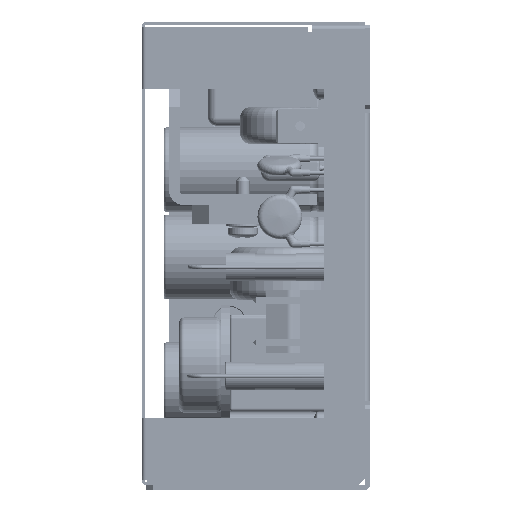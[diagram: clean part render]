
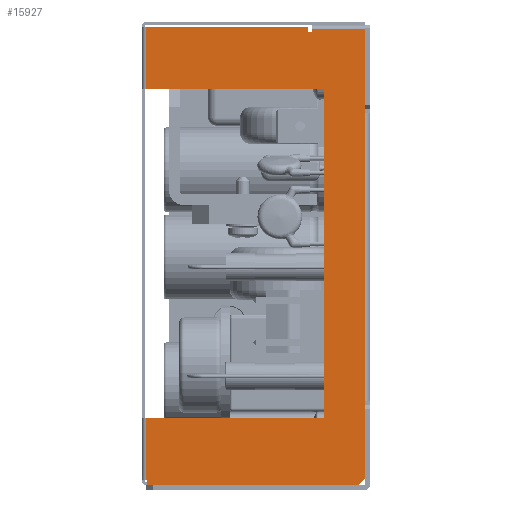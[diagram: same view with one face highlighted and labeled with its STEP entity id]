
A CAD part, left-side view. The second image highlights one B-rep face of the part: STEP entity #15927.
In plain terms, the highlighted planar face has unit normal (-1, 0, 0).
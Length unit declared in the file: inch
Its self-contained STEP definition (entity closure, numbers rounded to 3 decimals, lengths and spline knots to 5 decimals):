
#2909 = ORIENTED_EDGE ( 'NONE', *, *, #4669, .F. ) ;
#3052 = VECTOR ( 'NONE', #204284, 39.37008 ) ;
#3619 = LINE ( 'NONE', #195613, #93555 ) ;
#4669 = EDGE_CURVE ( 'NONE', #81488, #15446, #155035, .T. ) ;
#8972 = DIRECTION ( 'NONE',  ( 0., 0., 1. ) ) ;
#13727 = CARTESIAN_POINT ( 'NONE',  ( -2.75, 1.264, -1.658 ) ) ;
#15446 = VERTEX_POINT ( 'NONE', #191349 ) ;
#15890 = DIRECTION ( 'NONE',  ( 0., -0.707, 0.707 ) ) ;
#15927 = ADVANCED_FACE ( 'NONE', ( #211144 ), #17992, .T. ) ;
#17992 = PLANE ( 'NONE',  #66203 ) ;
#18033 = LINE ( 'NONE', #146207, #192764 ) ;
#19205 = CARTESIAN_POINT ( 'NONE',  ( -2.75, 1.354, -1.232 ) ) ;
#23055 = DIRECTION ( 'NONE',  ( 0., -1., 0. ) ) ;
#28141 = EDGE_CURVE ( 'NONE', #46094, #179667, #113719, .T. ) ;
#29319 = VERTEX_POINT ( 'NONE', #147679 ) ;
#29731 = ORIENTED_EDGE ( 'NONE', *, *, #183573, .T. ) ;
#32682 = EDGE_CURVE ( 'NONE', #128424, #15446, #139855, .T. ) ;
#35075 = DIRECTION ( 'NONE',  ( 0., 0., -1. ) ) ;
#37896 = LINE ( 'NONE', #13727, #122466 ) ;
#38536 = VECTOR ( 'NONE', #206653, 39.37008 ) ;
#40079 = CARTESIAN_POINT ( 'NONE',  ( -2.75, -2.65049, -1.678 ) ) ;
#42469 = LINE ( 'NONE', #57145, #82098 ) ;
#42502 = EDGE_CURVE ( 'NONE', #163483, #217439, #3619, .T. ) ;
#45467 = VECTOR ( 'NONE', #63110, 39.37008 ) ;
#45764 = VERTEX_POINT ( 'NONE', #205396 ) ;
#46094 = VERTEX_POINT ( 'NONE', #180903 ) ;
#48010 = LINE ( 'NONE', #68891, #3052 ) ;
#50980 = EDGE_LOOP ( 'NONE', ( #77488, #29731, #143570, #91248, #123763, #61922, #114696, #87383, #57066, #119933, #78362, #163026, #2909, #211637, #118994 ) ) ;
#56455 = VERTEX_POINT ( 'NONE', #162747 ) ;
#57066 = ORIENTED_EDGE ( 'NONE', *, *, #117807, .F. ) ;
#57145 = CARTESIAN_POINT ( 'NONE',  ( -2.75, 1.614, 1.715 ) ) ;
#57462 = VECTOR ( 'NONE', #15890, 39.37008 ) ;
#61922 = ORIENTED_EDGE ( 'NONE', *, *, #89407, .T. ) ;
#63110 = DIRECTION ( 'NONE',  ( 0., 0., 1. ) ) ;
#63565 = CARTESIAN_POINT ( 'NONE',  ( -2.75, 1.354, -1.232 ) ) ;
#65637 = VERTEX_POINT ( 'NONE', #189023 ) ;
#66203 = AXIS2_PLACEMENT_3D ( 'NONE', #102317, #136273, #35075 ) ;
#67504 = LINE ( 'NONE', #195121, #197200 ) ;
#68689 = CARTESIAN_POINT ( 'NONE',  ( -2.75, 1.614, 1.715 ) ) ;
#68891 = CARTESIAN_POINT ( 'NONE',  ( -2.75, 0.03, -5.99648 ) ) ;
#71995 = CARTESIAN_POINT ( 'NONE',  ( -2.75, 1.239, -1.698 ) ) ;
#74099 = DIRECTION ( 'NONE',  ( 0., -1., 0. ) ) ;
#74620 = EDGE_CURVE ( 'NONE', #45764, #145309, #88769, .T. ) ;
#77488 = ORIENTED_EDGE ( 'NONE', *, *, #149110, .F. ) ;
#78362 = ORIENTED_EDGE ( 'NONE', *, *, #153395, .F. ) ;
#78650 = VECTOR ( 'NONE', #201728, 39.37008 ) ;
#79978 = CARTESIAN_POINT ( 'NONE',  ( -2.75, 0.03, 1.215 ) ) ;
#81488 = VERTEX_POINT ( 'NONE', #192954 ) ;
#82098 = VECTOR ( 'NONE', #74099, 39.37008 ) ;
#87383 = ORIENTED_EDGE ( 'NONE', *, *, #142981, .F. ) ;
#88769 = LINE ( 'NONE', #71995, #38536 ) ;
#89407 = EDGE_CURVE ( 'NONE', #217439, #179667, #48010, .T. ) ;
#89556 = VECTOR ( 'NONE', #23055, 39.37008 ) ;
#91248 = ORIENTED_EDGE ( 'NONE', *, *, #118536, .T. ) ;
#93496 = VECTOR ( 'NONE', #214487, 39.37008 ) ;
#93555 = VECTOR ( 'NONE', #212597, 39.37008 ) ;
#93765 = DIRECTION ( 'NONE',  ( 0., 0., -1. ) ) ;
#94111 = EDGE_CURVE ( 'NONE', #65637, #144570, #192475, .T. ) ;
#95759 = LINE ( 'NONE', #130389, #45467 ) ;
#95994 = DIRECTION ( 'NONE',  ( 0., 0., 1. ) ) ;
#97476 = LINE ( 'NONE', #127207, #142396 ) ;
#99571 = CARTESIAN_POINT ( 'NONE',  ( -2.75, 0.04164, 1.715 ) ) ;
#100239 = CARTESIAN_POINT ( 'NONE',  ( -2.75, 1.614, 1.715 ) ) ;
#102317 = CARTESIAN_POINT ( 'NONE',  ( -2.75, -2.65049, -5.99648 ) ) ;
#102708 = EDGE_CURVE ( 'NONE', #145309, #81488, #37896, .T. ) ;
#109594 = VERTEX_POINT ( 'NONE', #19205 ) ;
#112354 = DIRECTION ( 'NONE',  ( 0., -1., 0. ) ) ;
#113719 = LINE ( 'NONE', #196691, #193160 ) ;
#114696 = ORIENTED_EDGE ( 'NONE', *, *, #28141, .F. ) ;
#115018 = DIRECTION ( 'NONE',  ( 0., 1., 0. ) ) ;
#117807 = EDGE_CURVE ( 'NONE', #144570, #207285, #42469, .T. ) ;
#118536 = EDGE_CURVE ( 'NONE', #109594, #163483, #18033, .T. ) ;
#118994 = ORIENTED_EDGE ( 'NONE', *, *, #74620, .F. ) ;
#119933 = ORIENTED_EDGE ( 'NONE', *, *, #94111, .F. ) ;
#122466 = VECTOR ( 'NONE', #115018, 39.37008 ) ;
#123763 = ORIENTED_EDGE ( 'NONE', *, *, #42502, .T. ) ;
#127207 = CARTESIAN_POINT ( 'NONE',  ( -2.75, 0.03, -5.99648 ) ) ;
#128424 = VERTEX_POINT ( 'NONE', #169245 ) ;
#129646 = EDGE_CURVE ( 'NONE', #29319, #109594, #138415, .T. ) ;
#130389 = CARTESIAN_POINT ( 'NONE',  ( -2.75, 1.664, -2.01178 ) ) ;
#136273 = DIRECTION ( 'NONE',  ( -1., 0., 0. ) ) ;
#138415 = LINE ( 'NONE', #63565, #93496 ) ;
#139855 = LINE ( 'NONE', #40079, #89556 ) ;
#141661 = DIRECTION ( 'NONE',  ( 0., 0., -1. ) ) ;
#142396 = VECTOR ( 'NONE', #8972, 39.37008 ) ;
#142981 = EDGE_CURVE ( 'NONE', #207285, #46094, #67504, .T. ) ;
#143570 = ORIENTED_EDGE ( 'NONE', *, *, #129646, .T. ) ;
#144570 = VERTEX_POINT ( 'NONE', #68689 ) ;
#145309 = VERTEX_POINT ( 'NONE', #211885 ) ;
#146207 = CARTESIAN_POINT ( 'NONE',  ( -2.75, 1.354, -1.232 ) ) ;
#147679 = CARTESIAN_POINT ( 'NONE',  ( -2.75, 0.03, -1.232 ) ) ;
#149110 = EDGE_CURVE ( 'NONE', #56455, #45764, #213678, .T. ) ;
#153395 = EDGE_CURVE ( 'NONE', #128424, #65637, #95759, .T. ) ;
#155035 = LINE ( 'NONE', #158745, #184286 ) ;
#157676 = CARTESIAN_POINT ( 'NONE',  ( -2.75, 0.03, 1.678 ) ) ;
#158745 = CARTESIAN_POINT ( 'NONE',  ( -2.75, 1.264, -2.01178 ) ) ;
#162747 = CARTESIAN_POINT ( 'NONE',  ( -2.75, 0.03, -1.698 ) ) ;
#163026 = ORIENTED_EDGE ( 'NONE', *, *, #32682, .T. ) ;
#163483 = VERTEX_POINT ( 'NONE', #209577 ) ;
#169245 = CARTESIAN_POINT ( 'NONE',  ( -2.75, 1.664, -1.678 ) ) ;
#179667 = VERTEX_POINT ( 'NONE', #157676 ) ;
#180903 = CARTESIAN_POINT ( 'NONE',  ( -2.75, 0.04164, 1.678 ) ) ;
#183573 = EDGE_CURVE ( 'NONE', #56455, #29319, #97476, .T. ) ;
#184286 = VECTOR ( 'NONE', #141661, 39.37008 ) ;
#184809 = CARTESIAN_POINT ( 'NONE',  ( -2.75, 1.239, -1.698 ) ) ;
#189023 = CARTESIAN_POINT ( 'NONE',  ( -2.75, 1.664, 1.665 ) ) ;
#191349 = CARTESIAN_POINT ( 'NONE',  ( -2.75, 1.264, -1.678 ) ) ;
#192475 = LINE ( 'NONE', #100239, #57462 ) ;
#192764 = VECTOR ( 'NONE', #95994, 39.37008 ) ;
#192954 = CARTESIAN_POINT ( 'NONE',  ( -2.75, 1.264, -1.658 ) ) ;
#193160 = VECTOR ( 'NONE', #112354, 39.37008 ) ;
#195121 = CARTESIAN_POINT ( 'NONE',  ( -2.75, 0.04164, 1.715 ) ) ;
#195613 = CARTESIAN_POINT ( 'NONE',  ( -2.75, 1.354, 1.215 ) ) ;
#196691 = CARTESIAN_POINT ( 'NONE',  ( -2.75, -0.00227, 1.678 ) ) ;
#197200 = VECTOR ( 'NONE', #93765, 39.37008 ) ;
#201728 = DIRECTION ( 'NONE',  ( 0., 1., 0. ) ) ;
#204284 = DIRECTION ( 'NONE',  ( 0., 0., 1. ) ) ;
#205396 = CARTESIAN_POINT ( 'NONE',  ( -2.75, 1.239, -1.698 ) ) ;
#206653 = DIRECTION ( 'NONE',  ( 0., 0., 1. ) ) ;
#207285 = VERTEX_POINT ( 'NONE', #99571 ) ;
#209577 = CARTESIAN_POINT ( 'NONE',  ( -2.75, 1.354, 1.215 ) ) ;
#211144 = FACE_OUTER_BOUND ( 'NONE', #50980, .T. ) ;
#211637 = ORIENTED_EDGE ( 'NONE', *, *, #102708, .F. ) ;
#211885 = CARTESIAN_POINT ( 'NONE',  ( -2.75, 1.239, -1.658 ) ) ;
#212597 = DIRECTION ( 'NONE',  ( 0., -1., 0. ) ) ;
#213678 = LINE ( 'NONE', #184809, #78650 ) ;
#214487 = DIRECTION ( 'NONE',  ( 0., 1., 0. ) ) ;
#217439 = VERTEX_POINT ( 'NONE', #79978 ) ;
